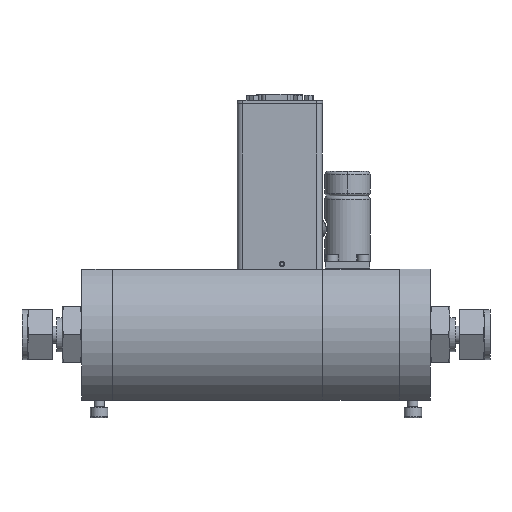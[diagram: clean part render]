
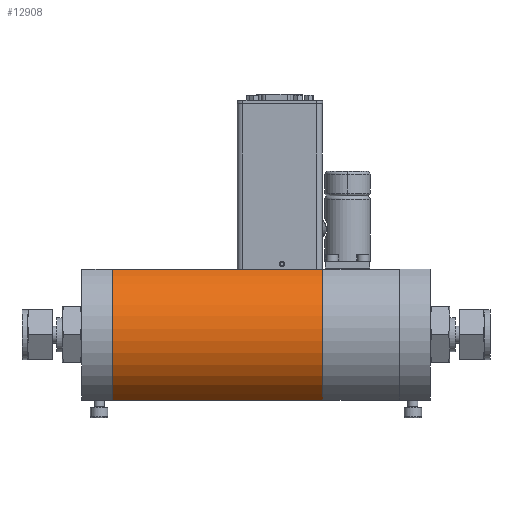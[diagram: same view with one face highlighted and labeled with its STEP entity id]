
A CAD part, front view. The second image highlights one B-rep face of the part: STEP entity #12908.
In plain terms, the highlighted cylindrical face has radius 42 mm (diameter 84 mm), a partial arc.
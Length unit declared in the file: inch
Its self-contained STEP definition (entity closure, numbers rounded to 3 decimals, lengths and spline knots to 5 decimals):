
#1155 = CYLINDRICAL_SURFACE ( 'NONE', #23468, 1.65354 ) ;
#1234 = VERTEX_POINT ( 'NONE', #28225 ) ;
#2809 = LINE ( 'NONE', #32085, #25051 ) ;
#3709 = CARTESIAN_POINT ( 'NONE',  ( -2.72824, 0.73011, 0.0165 ) ) ;
#4425 = EDGE_LOOP ( 'NONE', ( #14673, #23257, #17208, #21818 ) ) ;
#5940 = FACE_OUTER_BOUND ( 'NONE', #4425, .T. ) ;
#6014 = EDGE_CURVE ( 'NONE', #28946, #1234, #26551, .T. ) ;
#6665 = DIRECTION ( 'NONE',  ( 0., 0., 1. ) ) ;
#8156 = VERTEX_POINT ( 'NONE', #31130 ) ;
#9753 = AXIS2_PLACEMENT_3D ( 'NONE', #20756, #18157, #20638 ) ;
#10434 = CARTESIAN_POINT ( 'NONE',  ( -2.72824, -0.02996, -1.45201 ) ) ;
#11108 = EDGE_CURVE ( 'NONE', #28946, #8156, #31386, .T. ) ;
#11437 = DIRECTION ( 'NONE',  ( -1., 0., 0. ) ) ;
#12908 = ADVANCED_FACE ( 'NONE', ( #5940 ), #1155, .T. ) ;
#14253 = DIRECTION ( 'NONE',  ( -1., 0., 0. ) ) ;
#14673 = ORIENTED_EDGE ( 'NONE', *, *, #16312, .T. ) ;
#16312 = EDGE_CURVE ( 'NONE', #22535, #1234, #2809, .T. ) ;
#16695 = AXIS2_PLACEMENT_3D ( 'NONE', #3709, #11437, #21702 ) ;
#17208 = ORIENTED_EDGE ( 'NONE', *, *, #11108, .T. ) ;
#18136 = CARTESIAN_POINT ( 'NONE',  ( -2.72824, -0.02996, -1.45201 ) ) ;
#18157 = DIRECTION ( 'NONE',  ( -1., 0., 0. ) ) ;
#20638 = DIRECTION ( 'NONE',  ( 0., 0., 1. ) ) ;
#20756 = CARTESIAN_POINT ( 'NONE',  ( 1.99617, 0.73011, 0.0165 ) ) ;
#21702 = DIRECTION ( 'NONE',  ( 0., 0., 1. ) ) ;
#21818 = ORIENTED_EDGE ( 'NONE', *, *, #28444, .T. ) ;
#22535 = VERTEX_POINT ( 'NONE', #24160 ) ;
#23257 = ORIENTED_EDGE ( 'NONE', *, *, #6014, .F. ) ;
#23468 = AXIS2_PLACEMENT_3D ( 'NONE', #27144, #29440, #6665 ) ;
#24160 = CARTESIAN_POINT ( 'NONE',  ( 1.99617, -0.02996, 1.485 ) ) ;
#25051 = VECTOR ( 'NONE', #14253, 39.37008 ) ;
#25360 = DIRECTION ( 'NONE',  ( 1., 0., 0. ) ) ;
#26551 = CIRCLE ( 'NONE', #16695, 1.65354 ) ;
#27144 = CARTESIAN_POINT ( 'NONE',  ( -2.72824, 0.73011, 0.0165 ) ) ;
#28225 = CARTESIAN_POINT ( 'NONE',  ( -2.72824, -0.02996, 1.485 ) ) ;
#28444 = EDGE_CURVE ( 'NONE', #8156, #22535, #32129, .T. ) ;
#28946 = VERTEX_POINT ( 'NONE', #18136 ) ;
#29440 = DIRECTION ( 'NONE',  ( 1., 0., 0. ) ) ;
#31130 = CARTESIAN_POINT ( 'NONE',  ( 1.99617, -0.02996, -1.45201 ) ) ;
#31386 = LINE ( 'NONE', #10434, #32153 ) ;
#32085 = CARTESIAN_POINT ( 'NONE',  ( -12.72824, -0.02996, 1.485 ) ) ;
#32129 = CIRCLE ( 'NONE', #9753, 1.65354 ) ;
#32153 = VECTOR ( 'NONE', #25360, 39.37008 ) ;
